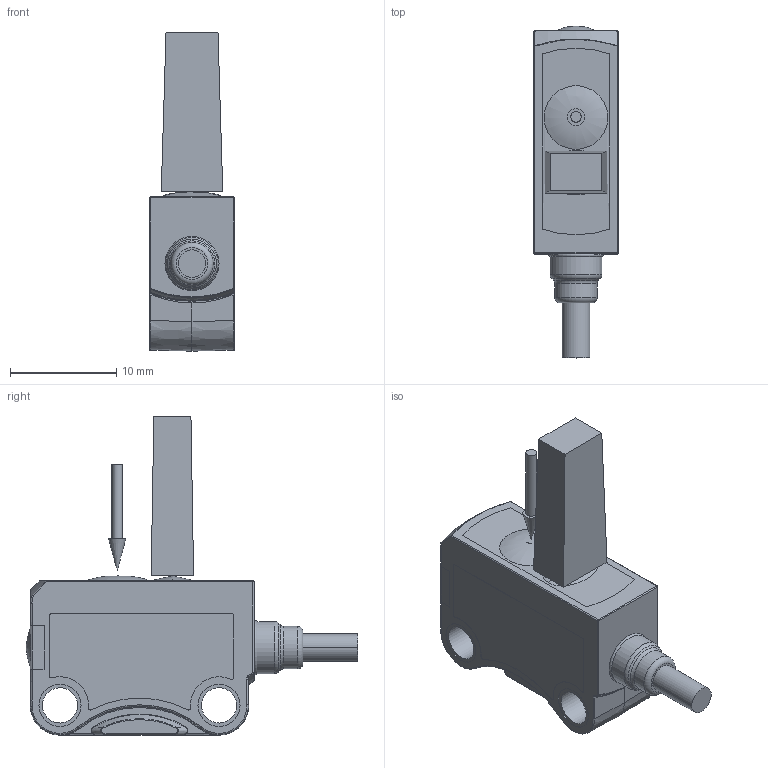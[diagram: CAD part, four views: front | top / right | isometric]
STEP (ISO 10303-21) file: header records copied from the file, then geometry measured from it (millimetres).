
FILE_DESCRIPTION(/* description */ (''),/* implementation_level */ '2;1');
FILE_NAME(/* name */ '600-11008_FT 10-RF1-PS-K4.stp',/* time_stamp */ '2023-10-12T09:24:53+02:00',/* author */ ('Sandra.Stahl'),/* organization */ (''),/* preprocessor_version */ 'ST-DEVELOPER v19.2',/* originating_system */ 'Autodesk Inventor 2023',/* authorisation */ '');
FILE_SCHEMA (('AUTOMOTIVE_DESIGN { 1 0 10303 214 3 1 1 }'));
Length unit declared in the file: millimetre
Products named in the file (1): GH-ENG-0042608_Vereinfachen_1
Bounding box: 8 x 31.3 x 30 mm (x, y, z)
Volume: 2551.9 mm3; surface area: 1747.1 mm2
Topology: 3 solids, 3 shells, 288 faces, 714 edges, 449 vertices
Faces by surface type: plane 131, cylinder 62, bspline 50, torus 21, cone 18, sphere 6
Full cylindrical faces by diameter (mm): 1 x1, 1.397 x1, 1.636 x1, 3.33 x2, 3.97 x4, 4 x1, 4.9 x1, 6 x1
Entity records: 11451 total; most frequent: CARTESIAN_POINT 4458, ORIENTED_EDGE 1430, DIRECTION 1288, EDGE_CURVE 715, AXIS2_PLACEMENT_3D 466, VERTEX_POINT 463, LINE 356, VECTOR 356
